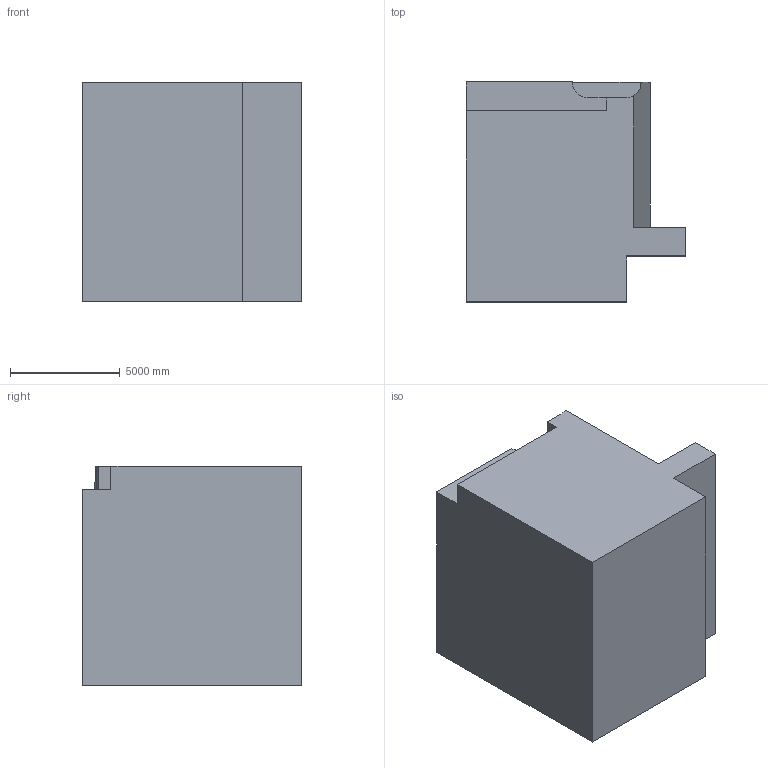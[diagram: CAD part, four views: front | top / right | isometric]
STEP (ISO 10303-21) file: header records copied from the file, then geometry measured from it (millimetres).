
FILE_DESCRIPTION (( 'STEP AP203' ), '1' );
FILE_NAME ('1478.STEP', '2022-08-25T15:01:03', ( 'user' ), ( '' ), 'SwSTEP 2.0', 'SolidWorks 2021', '' );
FILE_SCHEMA (( 'CONFIG_CONTROL_DESIGN' ));
Length unit declared in the file: centimetre
Products named in the file (1): 1478
Bounding box: 10000 x 10000 x 10000 mm (x, y, z)
Volume: 791574698828.3 mm3; surface area: 570224173.3 mm2
Topology: 1 solids, 1 shells, 22 faces, 57 edges, 38 vertices
Faces by surface type: plane 20, cylinder 2
Entity records: 742 total; most frequent: CARTESIAN_POINT 121, ORIENTED_EDGE 114, DIRECTION 106, EDGE_CURVE 57, VECTOR 52, LINE 52, VERTEX_POINT 38, AXIS2_PLACEMENT_3D 27
